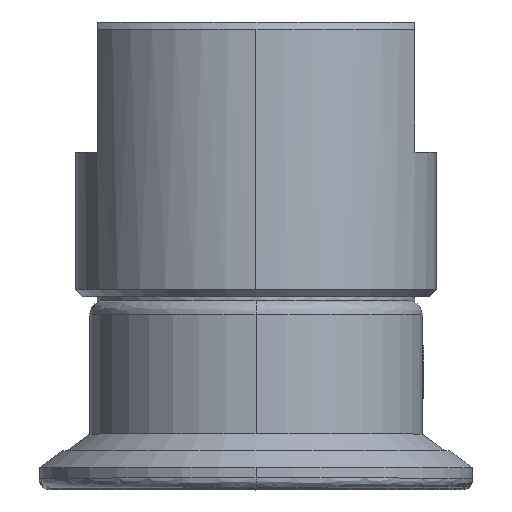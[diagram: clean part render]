
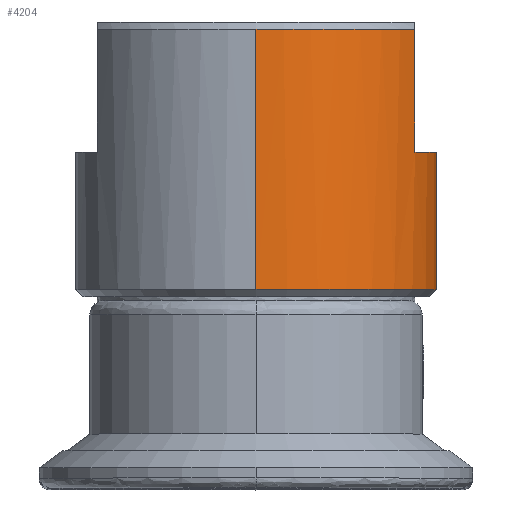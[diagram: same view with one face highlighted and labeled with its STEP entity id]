
A CAD part, top view. The second image highlights one B-rep face of the part: STEP entity #4204.
In plain terms, the highlighted cylindrical face has radius 12.5 mm (diameter 25 mm), a partial arc.
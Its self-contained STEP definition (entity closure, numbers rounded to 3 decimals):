
#62 = DIRECTION ( 'NONE',  ( 0., 0., -1. ) ) ;
#418 = ORIENTED_EDGE ( 'NONE', *, *, #4087, .T. ) ;
#468 = VERTEX_POINT ( 'NONE', #2645 ) ;
#497 = ORIENTED_EDGE ( 'NONE', *, *, #2754, .T. ) ;
#511 = ORIENTED_EDGE ( 'NONE', *, *, #2758, .T. ) ;
#604 = DIRECTION ( 'NONE',  ( 0., 1., 0. ) ) ;
#756 = VERTEX_POINT ( 'NONE', #3132 ) ;
#960 = DIRECTION ( 'NONE',  ( 0., 1., 0. ) ) ;
#1001 = LINE ( 'NONE', #3971, #1081 ) ;
#1012 = VERTEX_POINT ( 'NONE', #6560 ) ;
#1056 = CARTESIAN_POINT ( 'NONE',  ( 0., 7.3, 0. ) ) ;
#1081 = VECTOR ( 'NONE', #960, 1000. ) ;
#1295 = AXIS2_PLACEMENT_3D ( 'NONE', #1755, #604, #1869 ) ;
#1309 = DIRECTION ( 'NONE',  ( 0., -1., 0. ) ) ;
#1445 = CARTESIAN_POINT ( 'NONE',  ( 11., 25.8, -5.937 ) ) ;
#1673 = DIRECTION ( 'NONE',  ( 0., 0., -1. ) ) ;
#1755 = CARTESIAN_POINT ( 'NONE',  ( 0., 7.3, 0. ) ) ;
#1869 = DIRECTION ( 'NONE',  ( 0., 0., -1. ) ) ;
#2335 = CIRCLE ( 'NONE', #1295, 12.5 ) ;
#2483 = CARTESIAN_POINT ( 'NONE',  ( 0., 25.8, 12.5 ) ) ;
#2645 = CARTESIAN_POINT ( 'NONE',  ( 0., 25.3, 12.5 ) ) ;
#2754 = EDGE_CURVE ( 'NONE', #3962, #8105, #3392, .T. ) ;
#2758 = EDGE_CURVE ( 'NONE', #4478, #3962, #4482, .T. ) ;
#2772 = AXIS2_PLACEMENT_3D ( 'NONE', #1056, #5471, #7951 ) ;
#2845 = VERTEX_POINT ( 'NONE', #4603 ) ;
#2861 = VECTOR ( 'NONE', #7497, 1000. ) ;
#2898 = CIRCLE ( 'NONE', #7745, 12.5 ) ;
#3132 = CARTESIAN_POINT ( 'NONE',  ( 0., 7.3, -12.5 ) ) ;
#3299 = DIRECTION ( 'NONE',  ( 0., -1., 0. ) ) ;
#3392 = CIRCLE ( 'NONE', #7447, 12.5 ) ;
#3523 = EDGE_CURVE ( 'NONE', #5418, #756, #4426, .T. ) ;
#3637 = ORIENTED_EDGE ( 'NONE', *, *, #7030, .T. ) ;
#3648 = VERTEX_POINT ( 'NONE', #6052 ) ;
#3651 = DIRECTION ( 'NONE',  ( 0., -1., 0. ) ) ;
#3655 = VECTOR ( 'NONE', #1309, 1000. ) ;
#3691 = FACE_OUTER_BOUND ( 'NONE', #4718, .T. ) ;
#3962 = VERTEX_POINT ( 'NONE', #4067 ) ;
#3971 = CARTESIAN_POINT ( 'NONE',  ( 11., 25.8, 5.937 ) ) ;
#3985 = AXIS2_PLACEMENT_3D ( 'NONE', #6699, #6618, #7789 ) ;
#4067 = CARTESIAN_POINT ( 'NONE',  ( 11., 16.8, -5.937 ) ) ;
#4087 = EDGE_CURVE ( 'NONE', #468, #2845, #5546, .T. ) ;
#4141 = EDGE_CURVE ( 'NONE', #1012, #756, #2335, .T. ) ;
#4204 = ADVANCED_FACE ( 'NONE', ( #3691 ), #4330, .T. ) ;
#4330 = CYLINDRICAL_SURFACE ( 'NONE', #6694, 12.5 ) ;
#4426 = LINE ( 'NONE', #6297, #3655 ) ;
#4478 = VERTEX_POINT ( 'NONE', #4821 ) ;
#4482 = LINE ( 'NONE', #1445, #7977 ) ;
#4585 = CARTESIAN_POINT ( 'NONE',  ( 0., 25.3, -12.5 ) ) ;
#4603 = CARTESIAN_POINT ( 'NONE',  ( 0., 7.3, 12.5 ) ) ;
#4718 = EDGE_LOOP ( 'NONE', ( #7526, #418, #3637, #7431, #6155, #7639, #511, #497, #7440 ) ) ;
#4821 = CARTESIAN_POINT ( 'NONE',  ( 11., 25.3, -5.937 ) ) ;
#5169 = CARTESIAN_POINT ( 'NONE',  ( 0., 16.8, 0. ) ) ;
#5418 = VERTEX_POINT ( 'NONE', #4585 ) ;
#5471 = DIRECTION ( 'NONE',  ( 0., 1., 0. ) ) ;
#5546 = LINE ( 'NONE', #2483, #2861 ) ;
#5726 = EDGE_CURVE ( 'NONE', #5418, #4478, #2898, .T. ) ;
#6052 = CARTESIAN_POINT ( 'NONE',  ( 11., 25.3, 5.937 ) ) ;
#6129 = CARTESIAN_POINT ( 'NONE',  ( 0., 25.3, 0. ) ) ;
#6155 = ORIENTED_EDGE ( 'NONE', *, *, #3523, .F. ) ;
#6297 = CARTESIAN_POINT ( 'NONE',  ( 0., 25.8, -12.5 ) ) ;
#6335 = CIRCLE ( 'NONE', #2772, 12.5 ) ;
#6363 = CARTESIAN_POINT ( 'NONE',  ( 0., 25.8, 0. ) ) ;
#6533 = EDGE_CURVE ( 'NONE', #8105, #3648, #1001, .T. ) ;
#6560 = CARTESIAN_POINT ( 'NONE',  ( 12.5, 7.3, 0. ) ) ;
#6618 = DIRECTION ( 'NONE',  ( 0., -1., 0. ) ) ;
#6694 = AXIS2_PLACEMENT_3D ( 'NONE', #6363, #7047, #62 ) ;
#6699 = CARTESIAN_POINT ( 'NONE',  ( 0., 25.3, 0. ) ) ;
#6744 = EDGE_CURVE ( 'NONE', #3648, #468, #7376, .T. ) ;
#7030 = EDGE_CURVE ( 'NONE', #2845, #1012, #6335, .T. ) ;
#7047 = DIRECTION ( 'NONE',  ( 0., -1., 0. ) ) ;
#7073 = DIRECTION ( 'NONE',  ( 0., 0., -1. ) ) ;
#7376 = CIRCLE ( 'NONE', #3985, 12.5 ) ;
#7431 = ORIENTED_EDGE ( 'NONE', *, *, #4141, .T. ) ;
#7440 = ORIENTED_EDGE ( 'NONE', *, *, #6533, .T. ) ;
#7447 = AXIS2_PLACEMENT_3D ( 'NONE', #5169, #7647, #7073 ) ;
#7497 = DIRECTION ( 'NONE',  ( 0., -1., 0. ) ) ;
#7526 = ORIENTED_EDGE ( 'NONE', *, *, #6744, .T. ) ;
#7639 = ORIENTED_EDGE ( 'NONE', *, *, #5726, .T. ) ;
#7647 = DIRECTION ( 'NONE',  ( 0., -1., 0. ) ) ;
#7745 = AXIS2_PLACEMENT_3D ( 'NONE', #6129, #3651, #1673 ) ;
#7748 = CARTESIAN_POINT ( 'NONE',  ( 11., 16.8, 5.937 ) ) ;
#7789 = DIRECTION ( 'NONE',  ( 0., 0., -1. ) ) ;
#7951 = DIRECTION ( 'NONE',  ( 0., 0., -1. ) ) ;
#7977 = VECTOR ( 'NONE', #3299, 1000. ) ;
#8105 = VERTEX_POINT ( 'NONE', #7748 ) ;
